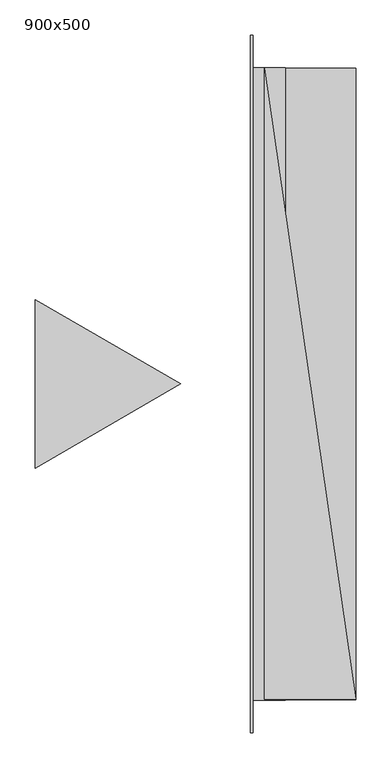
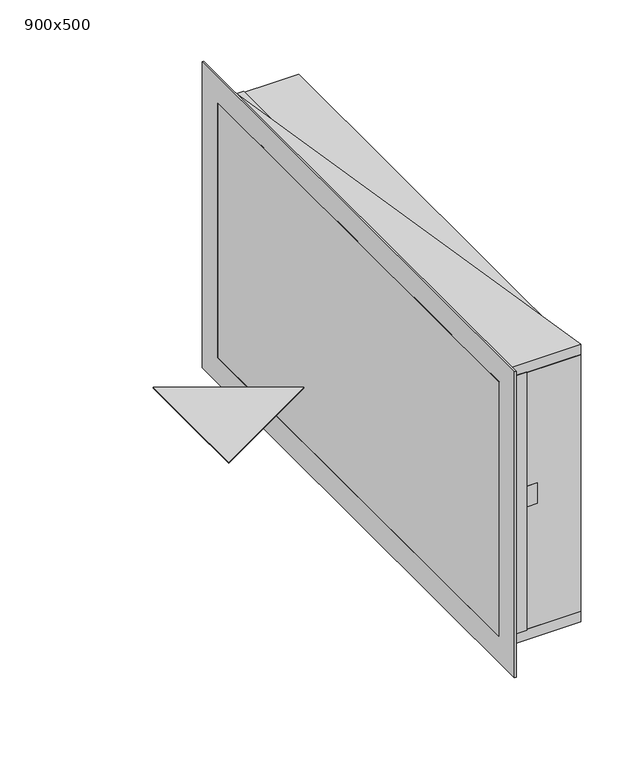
"""IFC4 building model written with IfcOpenShell, lengths in millimetres: air terminal geometry, Клапан ДУ прямоугольный стеновой : 900x500."""

import ifcopenshell
import ifcopenshell.guid

model = None  # the IFC model being written
_history = None  # IfcOwnerHistory: only IFC2X3 demands one
_inside = {}  # id of a spatial element -> (the spatial element, [elements in it])
_under = {}  # id of a project, library or spatial element -> (it, [spatial elements below it])
_declared = {}  # id of a project -> (the project, [libraries it declares])
_typed = {}  # id of a type object -> (the type object, [elements of that type])
_made_of = {}  # id of a material, layer set ... -> (it, [elements and type objects made of it])


def new_model(schema):
    """Start an empty IFC model of exactly this schema.

    Asked for "IFC4X3", IfcOpenShell would pick the latest addendum, in which some entities
    have other attributes; the version numbers below select the first issue.
    IFC2X3 requires an IfcOwnerHistory on every rooted entity: one is made here for all.
    """
    global model, _history
    if schema == "IFC4X3":
        model = ifcopenshell.file(schema_version=(4, 3, 0, 0))
    else:
        model = ifcopenshell.file(schema=schema)
    _inside.clear()
    _under.clear()
    _declared.clear()
    _typed.clear()
    _made_of.clear()
    _history = None
    if model.schema == "IFC2X3":
        org = make("IfcOrganization", Name="unknown")
        user = make(
            "IfcPersonAndOrganization",
            ThePerson=make("IfcPerson", FamilyName="unknown"),
            TheOrganization=org,
        )
        app = make(
            "IfcApplication",
            ApplicationDeveloper=org,
            Version="unknown",
            ApplicationFullName="unknown",
            ApplicationIdentifier="unknown",
        )
        _history = make(
            "IfcOwnerHistory",
            OwningUser=user,
            OwningApplication=app,
            ChangeAction="ADDED",
            CreationDate=0,
        )
    return model


def make(cls, **values):
    """One entity of the class cls with the attributes given. An attribute that is None is left unset."""
    return model.create_entity(
        cls, **{name: value for name, value in values.items() if value is not None}
    )


def rooted(cls, **values):
    """An entity with a GlobalId (a new one), such as an element, a storey or a relation."""
    return make(cls, GlobalId=ifcopenshell.guid.new(), OwnerHistory=_history, **values)


def si_unit(unit_type, name, prefix=None):
    """IfcSIUnit, for example si_unit("LENGTHUNIT", "METRE", prefix="MILLI")."""
    return make("IfcSIUnit", UnitType=unit_type, Prefix=prefix, Name=name)


def assignment(units):
    """IfcUnitAssignment: the units of a project."""
    return None if units is None else make("IfcUnitAssignment", Units=units)


def point(xyz):
    """IfcCartesianPoint."""
    return None if xyz is None else make("IfcCartesianPoint", Coordinates=xyz)


def direction(xyz):
    """IfcDirection."""
    return None if xyz is None else make("IfcDirection", DirectionRatios=xyz)


def frame(location, z_axis=None, x_axis=None):
    """IfcAxis2Placement3D, a coordinate frame: its origin and axes. An axis left out is left unset."""
    return make(
        "IfcAxis2Placement3D",
        Location=point(location),
        Axis=direction(z_axis),
        RefDirection=direction(x_axis),
    )


def frame_2d(location, x_axis=None):
    """IfcAxis2Placement2D, a coordinate frame in the plane: its origin and x axis."""
    return make(
        "IfcAxis2Placement2D", Location=point(location), RefDirection=direction(x_axis)
    )


def origin():
    """The frame at (0, 0, 0) with its axes left unset."""
    return frame((0.0, 0.0, 0.0))


def place(relative_to, where):
    """IfcLocalPlacement: puts the frame where relative to a parent placement (None: the world)."""
    return make(
        "IfcLocalPlacement", PlacementRelTo=relative_to, RelativePlacement=where
    )


def context(
    kind, dimensions, precision=None, world=None, true_north=None, identifier=None
):
    """IfcGeometricRepresentationContext, for example the 3D "Model" context."""
    return make(
        "IfcGeometricRepresentationContext",
        ContextIdentifier=identifier,
        ContextType=kind,
        CoordinateSpaceDimension=dimensions,
        Precision=precision,
        WorldCoordinateSystem=world,
        TrueNorth=true_north,
    )


def project(units=None, contexts=None):
    """IfcProject with its units and contexts."""
    return rooted(
        "IfcProject",
        Name="project",
        RepresentationContexts=contexts,
        UnitsInContext=assignment(units),
    )


def spatial(cls, under=None, at=None, **own):
    """A site, building, storey or space (cls), placed at a placement, below another one or the project."""
    s = rooted(cls, ObjectPlacement=at, **own)
    if under is not None:
        _under.setdefault(under.id(), (under, []))[1].append(s)
    return s


def polyline(points):
    """IfcPolyline through the points."""
    return make("IfcPolyline", Points=[point(p) for p in points])


def circle_curve(where, radius):
    """IfcCircle in the frame where."""
    return make("IfcCircle", Position=where, Radius=radius)


def trimmed(basis, trim1, trim2, sense, master):
    """IfcTrimmedCurve: the piece of a basis curve between two trims."""
    return make(
        "IfcTrimmedCurve",
        BasisCurve=basis,
        Trim1=trim1,
        Trim2=trim2,
        SenseAgreement=sense,
        MasterRepresentation=master,
    )


def segment(curve, same_sense, transition):
    """IfcCompositeCurveSegment."""
    return make(
        "IfcCompositeCurveSegment",
        Transition=transition,
        SameSense=same_sense,
        ParentCurve=curve,
    )


def composite_curve(segments, self_intersect=None):
    """IfcCompositeCurve: segments joined end to end."""
    return make("IfcCompositeCurve", Segments=segments, SelfIntersect=self_intersect)


def outline(outer, holes=None, kind="AREA"):
    """IfcArbitraryClosedProfileDef: a profile drawn as a closed curve; with holes, ...WithVoids."""
    if holes is None:
        return make("IfcArbitraryClosedProfileDef", ProfileType=kind, OuterCurve=outer)
    return make(
        "IfcArbitraryProfileDefWithVoids",
        ProfileType=kind,
        OuterCurve=outer,
        InnerCurves=holes,
    )


def extrude(swept, where, along, depth):
    """IfcExtrudedAreaSolid: the profile swept, set in the frame where, extruded along a direction by depth."""
    return make(
        "IfcExtrudedAreaSolid",
        SweptArea=swept,
        Position=where,
        ExtrudedDirection=direction(along),
        Depth=depth,
    )


def faces_of(points, faces, orient=None, outer=None):
    """IfcFace entities. A face is a list of loops; a loop is a list of indices into points, from 0.

    orient and outer hold one flag for each loop. By default every Orientation is true, the
    first loop of a face is its IfcFaceOuterBound and the others are IfcFaceBound.
    """
    made = []
    for i, loops in enumerate(faces):
        bounds = []
        for j, loop in enumerate(loops):
            is_outer = j == 0 if outer is None else outer[i][j]
            bounds.append(
                make(
                    "IfcFaceOuterBound" if is_outer else "IfcFaceBound",
                    Bound=make("IfcPolyLoop", Polygon=[points[k] for k in loop]),
                    Orientation=True if orient is None else orient[i][j],
                )
            )
        made.append(make("IfcFace", Bounds=bounds))
    return made


def faceted_brep(points, faces, orient=None, outer=None, voids=None):
    """IfcFacetedBrep: a solid bounded by flat faces; with voids (closed shells), ...WithVoids."""
    shared = [point(p) for p in points]
    hull = make("IfcClosedShell", CfsFaces=faces_of(shared, faces, orient, outer))
    if voids is None:
        return make("IfcFacetedBrep", Outer=hull)
    return make(
        "IfcFacetedBrepWithVoids",
        Outer=hull,
        Voids=[
            make(cls, CfsFaces=faces_of(shared, fs, o, b)) for cls, fs, o, b in voids
        ],
    )


def shape(context_of_items, identifier, shape_type, items):
    """IfcShapeRepresentation: the items that make up one representation, for example the "Body"."""
    return make(
        "IfcShapeRepresentation",
        ContextOfItems=context_of_items,
        RepresentationIdentifier=identifier,
        RepresentationType=shape_type,
        Items=items,
    )


def source(mapping_origin, context_of_items, identifier, shape_type, items):
    """IfcRepresentationMap: a shape defined once, which mapped items show again and again."""
    return make(
        "IfcRepresentationMap",
        MappingOrigin=mapping_origin,
        MappedRepresentation=shape(context_of_items, identifier, shape_type, items),
    )


def transform(
    local_origin,
    x_axis=None,
    y_axis=None,
    z_axis=None,
    scale=None,
    scale2=None,
    scale3=None,
    uniform=True,
):
    """IfcCartesianTransformationOperator3D, or its non-uniform kind. x_axis, y_axis, z_axis: its Axis1, 2, 3."""
    if uniform:
        return make(
            "IfcCartesianTransformationOperator3D",
            Axis1=direction(x_axis),
            Axis2=direction(y_axis),
            LocalOrigin=point(local_origin),
            Scale=scale,
            Axis3=direction(z_axis),
        )
    return make(
        "IfcCartesianTransformationOperator3DnonUniform",
        Axis1=direction(x_axis),
        Axis2=direction(y_axis),
        LocalOrigin=point(local_origin),
        Scale=scale,
        Axis3=direction(z_axis),
        Scale2=scale2,
        Scale3=scale3,
    )


def mapped(mapping_source, mapping_target):
    """IfcMappedItem: shows the shape of a source again, moved by a transform."""
    return make(
        "IfcMappedItem", MappingSource=mapping_source, MappingTarget=mapping_target
    )


def made_of(thing, what):
    """Note that an element or type object is made of a material, layer set ...; save() writes the relation."""
    if what is not None:
        _made_of.setdefault(what.id(), (what, []))[1].append(thing)
    return thing


def element(
    cls,
    number,
    at=None,
    inside=None,
    cuts=None,
    type_object=None,
    material=None,
    context=None,
    identifier="Body",
    shape_type=None,
    held_by="IfcProductDefinitionShape",
    body=None,
    shapes=None,
    **own,
):
    """One element of the class cls, such as IfcWall. Its Tag is "e" and its number.

    at: its placement. inside: the storey or other place that contains it. cuts: it is an
    opening in that element (IfcRelVoidsElement). A single representation is given by context,
    identifier, shape_type and body (its items); several are given by shapes. held_by: the class
    of the entity that holds the representations. save() writes the other relations.
    """
    e = rooted(cls, Tag="e%d" % number, ObjectPlacement=at, **own)
    if body is not None:
        shapes = [shape(context, identifier, shape_type, body)]
    if shapes is not None:
        e.Representation = make(held_by, Representations=shapes)
    if inside is not None:
        _inside.setdefault(inside.id(), (inside, []))[1].append(e)
    if cuts is not None:
        rooted(
            "IfcRelVoidsElement", RelatingBuildingElement=cuts, RelatedOpeningElement=e
        )
    if type_object is not None:
        _typed.setdefault(type_object.id(), (type_object, []))[1].append(e)
    return made_of(e, material)


def aggregate(whole, parts):
    """IfcRelAggregates: a whole, such as a stair, and the parts it consists of."""
    return rooted("IfcRelAggregates", RelatingObject=whole, RelatedObjects=parts)


def save(model, path):
    """Write the relations noted so far, then the file.

    IfcRelAggregates (storeys below a building ...), IfcRelContainedInSpatialStructure (elements
    in a storey), IfcRelDefinesByType, IfcRelAssociatesMaterial and IfcRelDeclares: one each for
    every whole, place, type object, material and project.
    """
    for whole, parts in _under.values():
        aggregate(whole, parts)
    for where, things in _inside.values():
        rooted(
            "IfcRelContainedInSpatialStructure",
            RelatedElements=things,
            RelatingStructure=where,
        )
    for kind, things in _typed.values():
        rooted("IfcRelDefinesByType", RelatedObjects=things, RelatingType=kind)
    for what, things in _made_of.values():
        rooted("IfcRelAssociatesMaterial", RelatedObjects=things, RelatingMaterial=what)
    for by, libraries in _declared.values():
        rooted("IfcRelDeclares", RelatingContext=by, RelatedDefinitions=libraries)
    model.write(path)


def air_terminal_900x500_1faddaba(model_context):
    return source(origin(), model_context, "Body", "SolidModel", [
        extrude(outline(polyline([(-382.8460969, -120.0), (-382.8460969, 0.0), (-382.8460969, 120.0), (-175.0, 0.0), (-382.8460969, -120.0)])), frame((0.0, 0.0, -1.0), z_axis=(0.0, 0.0, 1.0), x_axis=(1.0, 0.0, 0.0)), (0.0, 0.0, 1.0), 2.0),
        extrude(outline(composite_curve([segment(trimmed(circle_curve(frame_2d((8.3674271, -25.0)), 6.0), [point((8.3674271, -31.0))], [point((8.3674271, -19.0))], False, "CARTESIAN"), True, "CONTINUOUS"), segment(trimmed(circle_curve(frame_2d((8.3674271, -25.0)), 6.0), [point((8.3674271, -19.0))], [point((8.3674271, -31.0))], False, "CARTESIAN"), True, "CONTINUOUS")], self_intersect=False)), frame((0.0, -355.0, 0.0), z_axis=(0.0, 1.0, 0.0), x_axis=(0.0, 0.0, 1.0)), (0.0, 0.0, 1.0), 100.0),
        extrude(outline(polyline([(-5.669873, -390.5354596), (-5.669873, -395.5354596), (-10.0, -398.0354596), (-14.330127, -395.5354596), (-14.330127, -390.5354596), (-10.0, -388.0354596), (-5.669873, -390.5354596)])), frame((0.0, 0.0, -160.0), z_axis=(0.0, 0.0, 1.0), x_axis=(1.0, 0.0, 0.0)), (0.0, 0.0, 1.0), 20.0),
        extrude(outline(polyline([(-44.330127, -390.5354596), (-40.0, -388.0354596), (-35.669873, -390.5354596), (-35.669873, -395.5354596), (-40.0, -398.0354596), (-44.330127, -395.5354596), (-44.330127, -390.5354596)])), frame((0.0, 0.0, -160.0), z_axis=(0.0, 0.0, 1.0), x_axis=(1.0, 0.0, 0.0)), (0.0, 0.0, 1.0), 20.0),
        extrude(outline(polyline([(-5.0, -450.0), (-45.0, -450.0), (-45.0, -430.0), (-5.0, -430.0), (-5.0, -450.0)])), frame((0.0, 0.0, -11.6325729), z_axis=(0.0, 0.0, 1.0), x_axis=(1.0, 0.0, 0.0)), (0.0, 0.0, 1.0), 40.0),
        extrude(outline(composite_curve([segment(polyline([(40.0, 0.0), (40.0, -50.0)]), True, "CONTINUOUS"), segment(trimmed(circle_curve(frame_2d((25.0, -50.0)), 15.0), [point((40.0, -50.0))], [point((25.0, -65.0))], False, "CARTESIAN"), True, "CONTINUOUS"), segment(polyline([(25.0, -65.0), (-125.0, -65.0)]), True, "CONTINUOUS"), segment(trimmed(circle_curve(frame_2d((-125.0, -50.0)), 15.0), [point((-125.0, -65.0))], [point((-140.0, -50.0))], False, "CARTESIAN"), True, "CONTINUOUS"), segment(polyline([(-140.0, -50.0), (-140.0, 0.0)]), True, "CONTINUOUS"), segment(trimmed(circle_curve(frame_2d((-125.0, 0.0)), 15.0), [point((-140.0, 0.0))], [point((-125.0, 15.0))], False, "CARTESIAN"), True, "CONTINUOUS"), segment(polyline([(-125.0, 15.0), (25.0, 15.0)]), True, "CONTINUOUS"), segment(trimmed(circle_curve(frame_2d((25.0, 0.0)), 15.0), [point((25.0, 15.0))], [point((40.0, 0.0))], False, "CARTESIAN"), True, "CONTINUOUS")], self_intersect=False)), frame((0.0, -430.0, 0.0), z_axis=(0.0, 1.0, 0.0), x_axis=(0.0, 0.0, 1.0)), (0.0, 0.0, 1.0), 75.0),
        faceted_brep([(-75.0, -447.6138858, 247.6138858), (-25.0, -447.6138858, 247.6138858), (-25.0, -447.6138858, -247.6138858), (-75.0, -447.6138858, -247.6138858), (-71.5502892, -497.6138858, 297.6138858), (-75.0, -497.6138858, 297.6138858), (-75.0, -497.6138858, -297.6138858), (-71.5502892, -497.6138858, -297.6138858), (-25.0, -451.0635966, 251.0635966), (-71.5502892, -451.0635966, 251.0635966), (-71.5502892, -451.0635966, -251.0635966), (-25.0, -451.0635966, -251.0635966), (-25.0, 447.6138858, -247.6138858), (-75.0, 447.6138858, -247.6138858), (-75.0, 497.6138858, -297.6138858), (-71.5502892, 497.6138858, -297.6138858), (-71.5502892, 451.0635966, -251.0635966), (-25.0, 451.0635966, -251.0635966), (-25.0, 447.6138858, 247.6138858), (-75.0, 447.6138858, 247.6138858), (-75.0, 497.6138858, 297.6138858), (-71.5502892, 497.6138858, 297.6138858), (-71.5502892, 451.0635966, 251.0635966), (-25.0, 451.0635966, 251.0635966)], [[[0, 1, 2, 3]], [[4, 5, 6, 7]], [[8, 9, 10, 11]], [[3, 2, 12, 13]], [[7, 6, 14, 15]], [[11, 10, 16, 17]], [[13, 12, 18, 19]], [[15, 14, 20, 21]], [[17, 16, 22, 23]], [[19, 18, 1, 0]], [[5, 20, 14, 6], [3, 13, 19, 0]], [[21, 20, 5, 4]], [[7, 15, 21, 4], [9, 22, 16, 10]], [[23, 22, 9, 8]], [[11, 17, 23, 8], [1, 18, 12, 2]]]),
        extrude(outline(polyline([(75.0, 450.0), (75.0, -450.0), (-75.0, -450.0), (-75.0, 450.0), (75.0, 450.0)])), frame((0.0, 0.0, -250.0), z_axis=(0.0, 0.0, 1.0), x_axis=(1.0, 0.0, 0.0)), (0.0, 0.0, 1.0), 500.0),
        extrude(outline(polyline([(-55.0, -450.0), (-55.0, 450.0), (75.0, -450.0), (-55.0, -450.0)])), frame((0.0, 0.0, -270.0), z_axis=(0.0, 0.0, 1.0), x_axis=(1.0, 0.0, 0.0)), (0.0, 0.0, 1.0), 20.0),
        extrude(outline(polyline([(-55.0, -450.0), (-55.0, 450.0), (75.0, -450.0), (-55.0, -450.0)])), frame((0.0, 0.0, 250.0), z_axis=(0.0, 0.0, 1.0), x_axis=(1.0, 0.0, 0.0)), (0.0, 0.0, 1.0), 20.0),
    ])


if __name__ == "__main__":
    model = new_model("IFC4")
    model_context = context("Model", 3, world=origin())
    ifc_project = project(units=[si_unit("LENGTHUNIT", "METRE", prefix="MILLI")], contexts=[model_context])
    site = spatial("IfcSite", under=ifc_project)
    building = spatial("IfcBuilding", under=site)
    placement = place(None, origin())
    air_terminal_900x500_shape = air_terminal_900x500_1faddaba(model_context)
    element("IfcAirTerminal", 1, ObjectType="Клапан ДУ прямоугольный стеновой : 900x500", at=placement, inside=building, context=model_context, shape_type="MappedRepresentation", body=[
        mapped(air_terminal_900x500_shape, transform((0.0, 0.0, 0.0), x_axis=(1.0, 0.0, 0.0), y_axis=(0.0, 1.0, 0.0), z_axis=(0.0, 0.0, 1.0))),
    ])
    save(model, "model.ifc")
